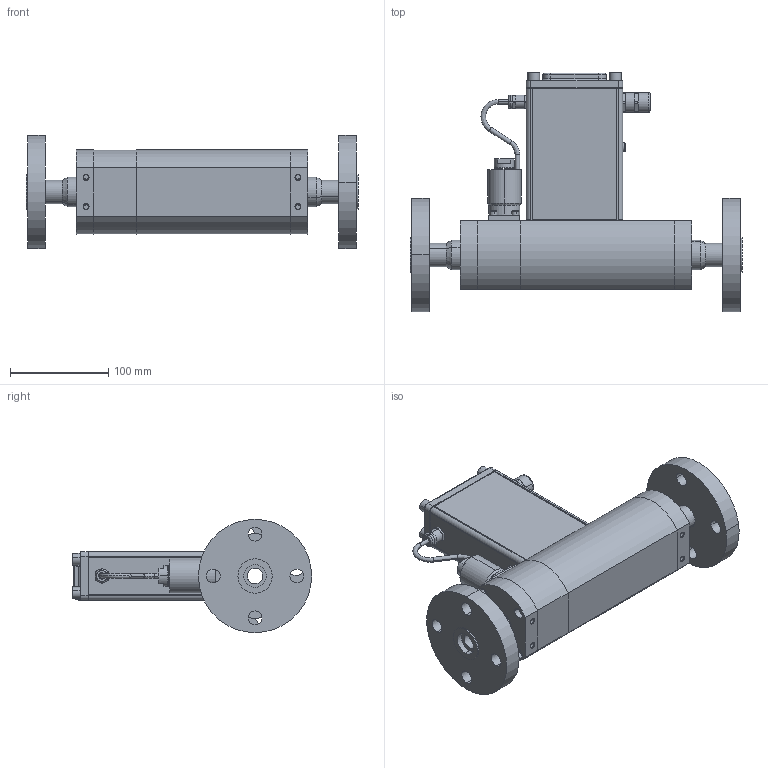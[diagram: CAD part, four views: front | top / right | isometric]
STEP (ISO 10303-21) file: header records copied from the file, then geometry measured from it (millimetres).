
FILE_DESCRIPTION (( 'STEP AP214' ), '1' );
FILE_NAME ('SLAMF53-S-3B-3-G-REVB.STEP', '2022-06-10T20:47:13', ( '' ), ( '' ), 'SwSTEP 2.0', 'SolidWorks 2020', '' );
FILE_SCHEMA (( 'AUTOMOTIVE_DESIGN' ));
Length unit declared in the file: inch
Products named in the file (1): SLAMF53-S-3B-3-G-REVB
Bounding box: 337.4 x 243.13 x 115 mm (x, y, z)
Surface area: 224337.2 mm2 (no closed solid volume)
Topology: 0 solids, 32 shells, 424 faces, 1204 edges, 823 vertices
Faces by surface type: cylinder 189, plane 164, cone 42, bspline 29
Entity records: 20556 total; most frequent: CARTESIAN_POINT 3792, DIRECTION 2464, ORIENTED_EDGE 2055, EDGE_CURVE 1202, AXIS2_PLACEMENT_3D 954, VERTEX_POINT 823, CIRCLE 558, VECTOR 556
